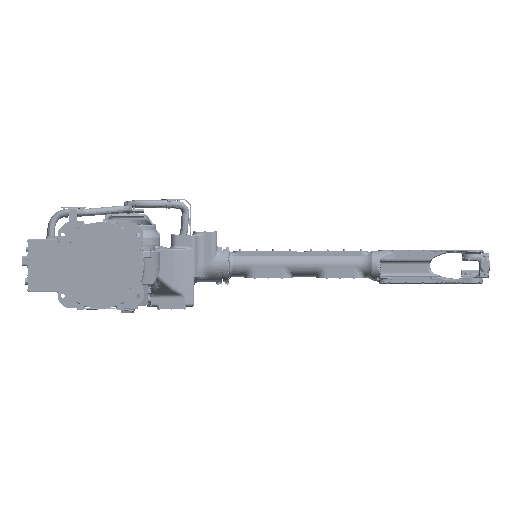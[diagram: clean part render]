
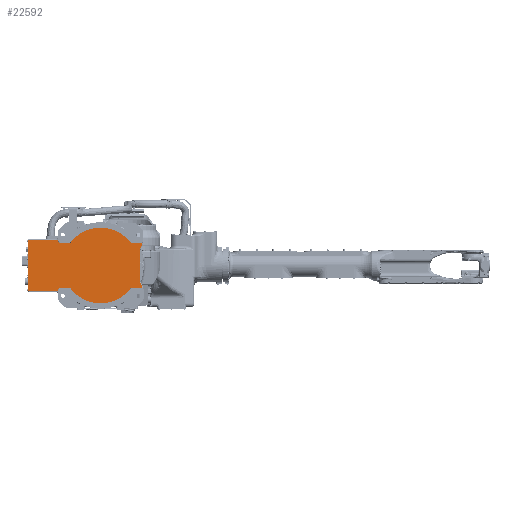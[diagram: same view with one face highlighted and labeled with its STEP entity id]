
A CAD part, front view. The second image highlights one B-rep face of the part: STEP entity #22592.
In plain terms, the highlighted planar face has unit normal (0, -1, 0) as drawn and (0, 0, -1) by its records, which use the part's own axes.
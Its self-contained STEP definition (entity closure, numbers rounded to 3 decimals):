
#2=DIRECTION('',(1.,0.,0.));
#3=VECTOR('',#2,42.793);
#4=CARTESIAN_POINT('',(-205.,-117.,8.));
#5=LINE('',#4,#3);
#6=DIRECTION('',(1.,0.,0.));
#7=VECTOR('',#6,52.793);
#8=CARTESIAN_POINT('',(162.207,-117.,8.));
#9=LINE('',#8,#7);
#10=CARTESIAN_POINT('',(215.,-130.,8.));
#11=DIRECTION('',(0.,0.,-1.));
#12=DIRECTION('',(0.,1.,0.));
#13=AXIS2_PLACEMENT_3D('',#10,#11,#12);
#15=CARTESIAN_POINT('',(185.,-124.443,8.));
#16=DIRECTION('',(0.,0.,-1.));
#17=DIRECTION('',(0.894,0.447,0.));
#18=AXIS2_PLACEMENT_3D('',#15,#16,#17);
#20=DIRECTION('',(0.447,-0.894,0.));
#21=VECTOR('',#20,14.656);
#22=CARTESIAN_POINT('',(211.54,-94.787,8.));
#23=LINE('',#22,#21);
#24=CARTESIAN_POINT('',(250.,-75.557,8.));
#25=DIRECTION('',(0.,0.,1.));
#26=DIRECTION('',(-1.,0.,0.));
#27=AXIS2_PLACEMENT_3D('',#24,#25,#26);
#29=DIRECTION('',(0.,-1.,0.));
#30=VECTOR('',#29,151.115);
#31=CARTESIAN_POINT('',(207.,75.557,8.));
#32=LINE('',#31,#30);
#33=CARTESIAN_POINT('',(250.,75.557,8.));
#34=DIRECTION('',(0.,0.,1.));
#35=DIRECTION('',(-0.894,0.447,0.));
#36=AXIS2_PLACEMENT_3D('',#33,#34,#35);
#38=DIRECTION('',(-0.447,-0.894,0.));
#39=VECTOR('',#38,14.656);
#40=CARTESIAN_POINT('',(218.094,107.896,8.));
#41=LINE('',#40,#39);
#42=CARTESIAN_POINT('',(185.,124.443,8.));
#43=DIRECTION('',(0.,0.,-1.));
#44=DIRECTION('',(0.98,-0.201,0.));
#45=AXIS2_PLACEMENT_3D('',#42,#43,#44);
#47=DIRECTION('',(-1.,0.,0.));
#48=VECTOR('',#47,59.037);
#49=CARTESIAN_POINT('',(221.244,117.,8.));
#50=LINE('',#49,#48);
#51=DIRECTION('',(-1.,0.,0.));
#52=VECTOR('',#51,42.793);
#53=CARTESIAN_POINT('',(-162.207,117.,8.));
#54=LINE('',#53,#52);
#55=CARTESIAN_POINT('',(-205.,140.,8.));
#56=DIRECTION('',(0.,0.,-1.));
#57=DIRECTION('',(0.,-1.,0.));
#58=AXIS2_PLACEMENT_3D('',#55,#56,#57);
#60=CARTESIAN_POINT('',(-235.,149.682,8.));
#61=DIRECTION('',(0.,0.,-1.));
#62=DIRECTION('',(0.541,-0.841,0.));
#63=AXIS2_PLACEMENT_3D('',#60,#61,#62);
#65=CARTESIAN_POINT('',(-239.208,122.,8.));
#66=DIRECTION('',(0.,0.,1.));
#67=DIRECTION('',(0.15,0.989,0.));
#68=AXIS2_PLACEMENT_3D('',#65,#66,#67);
#70=DIRECTION('',(-1.,0.,0.));
#71=VECTOR('',#70,138.792);
#72=CARTESIAN_POINT('',(-239.208,137.,8.));
#73=LINE('',#72,#71);
#74=DIRECTION('',(0.,-1.,0.));
#75=VECTOR('',#74,4.);
#76=CARTESIAN_POINT('',(-378.,137.,8.));
#77=LINE('',#76,#75);
#78=DIRECTION('',(0.,-1.,0.));
#79=VECTOR('',#78,4.);
#80=CARTESIAN_POINT('',(-378.,-133.,8.));
#81=LINE('',#80,#79);
#82=DIRECTION('',(-1.,0.,0.));
#83=VECTOR('',#82,138.792);
#84=CARTESIAN_POINT('',(-239.208,-137.,8.));
#85=LINE('',#84,#83);
#86=CARTESIAN_POINT('',(-239.208,-122.,8.));
#87=DIRECTION('',(0.,0.,-1.));
#88=DIRECTION('',(0.15,-0.989,0.));
#89=AXIS2_PLACEMENT_3D('',#86,#87,#88);
#91=CARTESIAN_POINT('',(-235.,-149.682,8.));
#92=DIRECTION('',(0.,0.,1.));
#93=DIRECTION('',(0.541,0.841,0.));
#94=AXIS2_PLACEMENT_3D('',#91,#92,#93);
#96=CARTESIAN_POINT('',(-205.,-140.,8.));
#97=DIRECTION('',(0.,0.,-1.));
#98=DIRECTION('',(-0.999,0.054,0.));
#99=AXIS2_PLACEMENT_3D('',#96,#97,#98);
#132=CARTESIAN_POINT('',(0.,0.,8.));
#133=DIRECTION('',(0.,0.,-1.));
#134=DIRECTION('',(0.811,-0.585,0.));
#135=AXIS2_PLACEMENT_3D('',#132,#133,#134);
#474=DIRECTION('',(-1.,0.,0.));
#475=VECTOR('',#474,3.2);
#476=CARTESIAN_POINT('',(-378.,-133.,8.));
#477=LINE('',#476,#475);
#498=DIRECTION('',(0.,-1.,0.));
#499=VECTOR('',#498,266.);
#500=CARTESIAN_POINT('',(-381.2,133.,8.));
#501=LINE('',#500,#499);
#813=DIRECTION('',(-1.,0.,0.));
#814=VECTOR('',#813,3.2);
#815=CARTESIAN_POINT('',(-378.,133.,8.));
#816=LINE('',#815,#814);
#1004=CARTESIAN_POINT('',(-227.966,138.749,8.));
#1052=CARTESIAN_POINT('',(0.,0.,8.));
#1053=DIRECTION('',(0.,0.,-1.));
#1054=DIRECTION('',(-0.811,0.585,0.));
#1055=AXIS2_PLACEMENT_3D('',#1052,#1053,#1054);
#1171=CARTESIAN_POINT('',(221.564,-118.779,8.));
#19860=CARTESIAN_POINT('',(-239.208,-137.,8.));
#19861=CARTESIAN_POINT('',(-378.,-137.,8.));
#19862=VERTEX_POINT('',#19860);
#19863=VERTEX_POINT('',#19861);
#19864=CARTESIAN_POINT('',(-236.954,-136.83,8.));
#19865=VERTEX_POINT('',#19864);
#19951=CARTESIAN_POINT('',(-239.208,137.,8.));
#19952=CARTESIAN_POINT('',(-378.,137.,8.));
#19953=VERTEX_POINT('',#19951);
#19954=VERTEX_POINT('',#19952);
#19955=CARTESIAN_POINT('',(-236.954,136.83,8.));
#19956=VERTEX_POINT('',#19955);
#19969=CARTESIAN_POINT('',(-227.966,-138.749,8.));
#19970=CARTESIAN_POINT('',(-205.,-117.,8.));
#19971=VERTEX_POINT('',#19969);
#19972=VERTEX_POINT('',#19970);
#19983=VERTEX_POINT('',#1004);
#19985=CARTESIAN_POINT('',(-205.,117.,8.));
#19986=VERTEX_POINT('',#19985);
#19991=CARTESIAN_POINT('',(215.,-117.,8.));
#19992=VERTEX_POINT('',#19991);
#19996=VERTEX_POINT('',#1171);
#19998=CARTESIAN_POINT('',(218.094,-107.896,8.));
#19999=VERTEX_POINT('',#19998);
#20002=CARTESIAN_POINT('',(211.54,-94.787,8.));
#20003=VERTEX_POINT('',#20002);
#20006=CARTESIAN_POINT('',(207.,-75.557,8.));
#20007=VERTEX_POINT('',#20006);
#20010=CARTESIAN_POINT('',(207.,75.557,8.));
#20011=VERTEX_POINT('',#20010);
#20014=CARTESIAN_POINT('',(211.54,94.787,8.));
#20015=VERTEX_POINT('',#20014);
#20018=CARTESIAN_POINT('',(218.094,107.896,8.));
#20019=VERTEX_POINT('',#20018);
#20022=CARTESIAN_POINT('',(221.244,117.,8.));
#20023=VERTEX_POINT('',#20022);
#20206=CARTESIAN_POINT('',(-381.2,133.,8.));
#20208=VERTEX_POINT('',#20206);
#20219=CARTESIAN_POINT('',(-381.2,-133.,8.));
#20221=VERTEX_POINT('',#20219);
#20230=CARTESIAN_POINT('',(-378.,133.,8.));
#20231=VERTEX_POINT('',#20230);
#20236=CARTESIAN_POINT('',(-378.,-133.,8.));
#20237=VERTEX_POINT('',#20236);
#22443=CARTESIAN_POINT('',(162.207,-117.,8.));
#22444=CARTESIAN_POINT('',(-162.207,-117.,8.));
#22445=VERTEX_POINT('',#22443);
#22446=VERTEX_POINT('',#22444);
#22447=CARTESIAN_POINT('',(-162.207,117.,8.));
#22448=CARTESIAN_POINT('',(162.207,117.,8.));
#22449=VERTEX_POINT('',#22447);
#22450=VERTEX_POINT('',#22448);
#22531=CARTESIAN_POINT('',(0.,0.,8.));
#22532=DIRECTION('',(0.,0.,1.));
#22533=DIRECTION('',(1.,0.,0.));
#22534=AXIS2_PLACEMENT_3D('',#22531,#22532,#22533);
#22535=PLANE('',#22534);
#22537=ORIENTED_EDGE('',*,*,#22536,.T.);
#22539=ORIENTED_EDGE('',*,*,#22538,.F.);
#22541=ORIENTED_EDGE('',*,*,#22540,.T.);
#22543=ORIENTED_EDGE('',*,*,#22542,.T.);
#22545=ORIENTED_EDGE('',*,*,#22544,.F.);
#22547=ORIENTED_EDGE('',*,*,#22546,.F.);
#22549=ORIENTED_EDGE('',*,*,#22548,.F.);
#22551=ORIENTED_EDGE('',*,*,#22550,.F.);
#22553=ORIENTED_EDGE('',*,*,#22552,.F.);
#22555=ORIENTED_EDGE('',*,*,#22554,.F.);
#22557=ORIENTED_EDGE('',*,*,#22556,.F.);
#22559=ORIENTED_EDGE('',*,*,#22558,.T.);
#22561=ORIENTED_EDGE('',*,*,#22560,.F.);
#22563=ORIENTED_EDGE('',*,*,#22562,.T.);
#22565=ORIENTED_EDGE('',*,*,#22564,.T.);
#22567=ORIENTED_EDGE('',*,*,#22566,.T.);
#22569=ORIENTED_EDGE('',*,*,#22568,.T.);
#22571=ORIENTED_EDGE('',*,*,#22570,.T.);
#22573=ORIENTED_EDGE('',*,*,#22572,.T.);
#22575=ORIENTED_EDGE('',*,*,#22574,.T.);
#22577=ORIENTED_EDGE('',*,*,#22576,.T.);
#22579=ORIENTED_EDGE('',*,*,#22578,.F.);
#22581=ORIENTED_EDGE('',*,*,#22580,.T.);
#22583=ORIENTED_EDGE('',*,*,#22582,.F.);
#22585=ORIENTED_EDGE('',*,*,#22584,.F.);
#22587=ORIENTED_EDGE('',*,*,#22586,.F.);
#22589=ORIENTED_EDGE('',*,*,#22588,.T.);
#22590=EDGE_LOOP('',(#22537,#22539,#22541,#22543,#22545,#22547,#22549,#22551,
#22553,#22555,#22557,#22559,#22561,#22563,#22565,#22567,#22569,#22571,#22573,
#22575,#22577,#22579,#22581,#22583,#22585,#22587,#22589));
#22591=FACE_OUTER_BOUND('',#22590,.F.);
#22592=ADVANCED_FACE('',(#22591),#22535,.F.);
#14=CIRCLE('',#13,13.);
#19=CIRCLE('',#18,37.);
#28=CIRCLE('',#27,43.);
#37=CIRCLE('',#36,43.);
#46=CIRCLE('',#45,37.);
#59=CIRCLE('',#58,23.);
#64=CIRCLE('',#63,13.);
#69=CIRCLE('',#68,15.);
#90=CIRCLE('',#89,15.);
#95=CIRCLE('',#94,13.);
#100=CIRCLE('',#99,23.);
#136=CIRCLE('',#135,200.);
#1056=CIRCLE('',#1055,200.);
#22536=EDGE_CURVE('',#19972,#22446,#5,.T.);
#22538=EDGE_CURVE('',#22445,#22446,#136,.T.);
#22540=EDGE_CURVE('',#22445,#19992,#9,.T.);
#22542=EDGE_CURVE('',#19992,#19996,#14,.T.);
#22544=EDGE_CURVE('',#19999,#19996,#19,.T.);
#22546=EDGE_CURVE('',#20003,#19999,#23,.T.);
#22548=EDGE_CURVE('',#20007,#20003,#28,.T.);
#22550=EDGE_CURVE('',#20011,#20007,#32,.T.);
#22552=EDGE_CURVE('',#20015,#20011,#37,.T.);
#22554=EDGE_CURVE('',#20019,#20015,#41,.T.);
#22556=EDGE_CURVE('',#20023,#20019,#46,.T.);
#22558=EDGE_CURVE('',#20023,#22450,#50,.T.);
#22560=EDGE_CURVE('',#22449,#22450,#1056,.T.);
#22562=EDGE_CURVE('',#22449,#19986,#54,.T.);
#22564=EDGE_CURVE('',#19986,#19983,#59,.T.);
#22566=EDGE_CURVE('',#19983,#19956,#64,.T.);
#22568=EDGE_CURVE('',#19956,#19953,#69,.T.);
#22570=EDGE_CURVE('',#19953,#19954,#73,.T.);
#22572=EDGE_CURVE('',#19954,#20231,#77,.T.);
#22574=EDGE_CURVE('',#20231,#20208,#816,.T.);
#22576=EDGE_CURVE('',#20208,#20221,#501,.T.);
#22578=EDGE_CURVE('',#20237,#20221,#477,.T.);
#22580=EDGE_CURVE('',#20237,#19863,#81,.T.);
#22582=EDGE_CURVE('',#19862,#19863,#85,.T.);
#22584=EDGE_CURVE('',#19865,#19862,#90,.T.);
#22586=EDGE_CURVE('',#19971,#19865,#95,.T.);
#22588=EDGE_CURVE('',#19971,#19972,#100,.T.);
